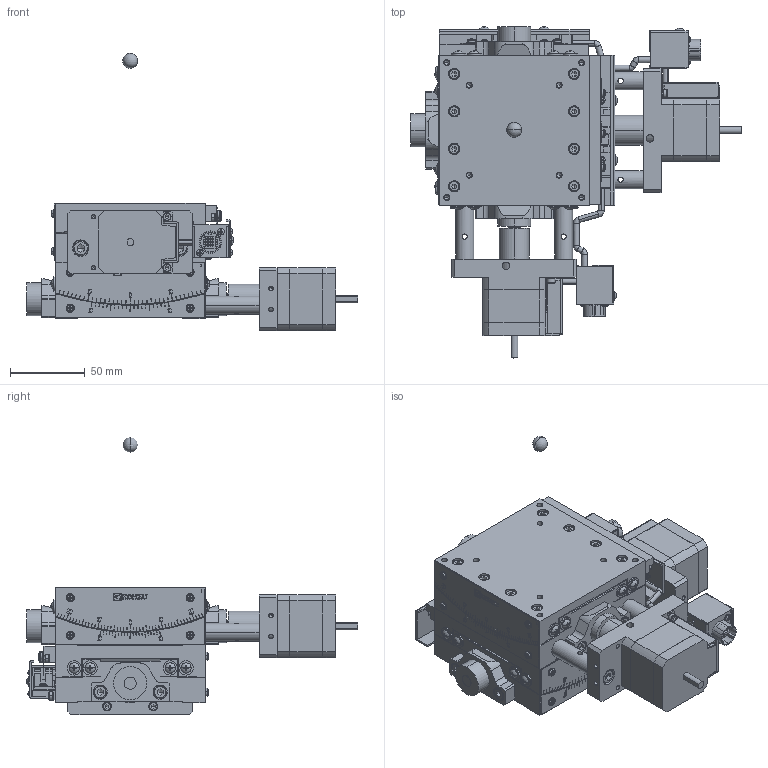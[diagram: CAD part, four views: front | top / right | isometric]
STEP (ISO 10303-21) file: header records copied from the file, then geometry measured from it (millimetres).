
FILE_DESCRIPTION( (''), '2;1');
FILE_NAME ('SA10A-R2S01.stp','2021-11-19T15:15:48',(''),(''),'spGate 17.5.5','','');
FILE_SCHEMA (('AUTOMOTIVE_DESIGN'));
Length unit declared in the file: millimetre
Products named in the file (5): Assembly; SA10A-R2S01-prt0; SA10A-R2S01-prt1; SA10A-R2S01-prt2; SA10A-R2S01-prt3
Assembly tree (4 placements, depth 2):
  Assembly
    SA10A-R2S01-prt0
    SA10A-R2S01-prt1
    SA10A-R2S01-prt2
    SA10A-R2S01-prt3
Bounding box: 221.5 x 221.5 x 185 mm (x, y, z)
Volume: 1078732.2 mm3; surface area: 253966.6 mm2
Topology: 4 solids, 17 shells, 5540 faces, 14030 edges, 8752 vertices
Faces by surface type: plane 3702, cylinder 1092, bspline 654, sphere 92
Entity records: 283435 total; most frequent: CARTESIAN_POINT 42191, ORIENTED_EDGE 27644, DIRECTION 25804, COLOUR_RGB 19366, PRESENTATION_STYLE_ASSIGNMENT 19366, STYLED_ITEM 19366, EDGE_CURVE 13822, DRAUGHTING_PRE_DEFINED_CURVE_FONT 13822
